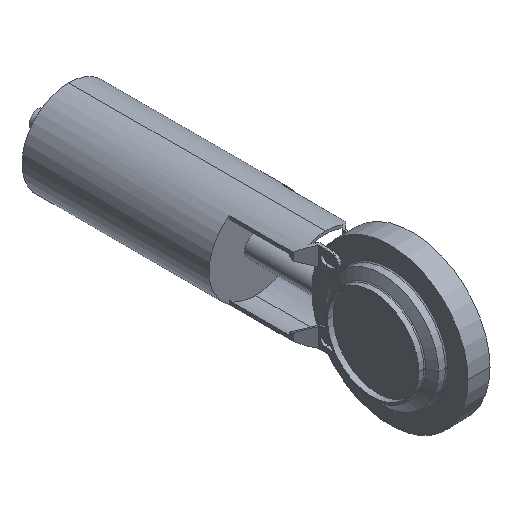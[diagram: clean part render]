
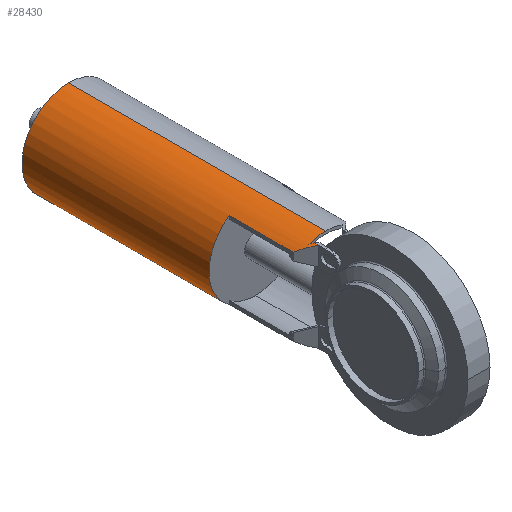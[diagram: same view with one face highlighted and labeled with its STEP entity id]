
A CAD part, isometric view. The second image highlights one B-rep face of the part: STEP entity #28430.
In plain terms, the highlighted cylindrical face has radius 42.5 mm (diameter 85 mm), a partial arc.
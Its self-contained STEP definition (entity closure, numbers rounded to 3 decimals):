
#19600=CARTESIAN_POINT('',(-279.595,169.806,
-35.075));
#19610=VERTEX_POINT('',#19600);
#19640=CARTESIAN_POINT('',(-255.595,169.806,
0.));
#19650=DIRECTION('',(0.,-1.,0.));
#19660=DIRECTION('',(0.,0.,1.));
#19670=AXIS2_PLACEMENT_3D('',#19640,#19650,#19660);
#19680=CIRCLE('',#19670,42.5);
#19690=CARTESIAN_POINT('',(-279.595,169.806,
35.075));
#19700=VERTEX_POINT('',#19690);
#19710=EDGE_CURVE('',#19700,#19610,#19680,.T.);
#21670=CARTESIAN_POINT('',(-255.595,106.406,
0.));
#21680=DIRECTION('',(0.,-1.,0.));
#21690=DIRECTION('',(0.,0.,-1.));
#21700=AXIS2_PLACEMENT_3D('',#21670,#21680,#21690);
#21710=CIRCLE('',#21700,42.5);
#21720=CARTESIAN_POINT('',(-255.595,106.406,-42.5));
#21730=VERTEX_POINT('',#21720);
#21760=CARTESIAN_POINT('',(-270.653,106.406,
-39.743));
#21770=VERTEX_POINT('',#21760);
#21780=EDGE_CURVE('',#21770,#21730,#21710,.T.);
#22160=CARTESIAN_POINT('',(-255.595,91.348,
0.));
#22170=DIRECTION('',(0.707,0.707,0.));
#22180=DIRECTION('',(0.707,-0.707,0.));
#22190=AXIS2_PLACEMENT_3D('',#22160,#22170,#22180);
#22200=ELLIPSE('',#22190,60.104,42.5);
#22210=CARTESIAN_POINT('',(-265.595,101.348,
-41.307));
#22220=VERTEX_POINT('',#22210);
#22230=EDGE_CURVE('',#22220,#21770,#22200,.T.);
#22410=CARTESIAN_POINT('',(-279.595,366.667,
-35.075));
#22420=DIRECTION('',(0.,-1.,0.));
#22430=VECTOR('',#22420,1.);
#22440=LINE('',#22410,#22430);
#22450=CARTESIAN_POINT('',(-279.595,111.812,
-35.075));
#22460=VERTEX_POINT('',#22450);
#22470=EDGE_CURVE('',#19610,#22460,#22440,.T.);
#23010=CARTESIAN_POINT('',(-268.095,93.857,
-40.62));
#23020=VERTEX_POINT('',#23010);
#23050=CARTESIAN_POINT('',(-268.095,366.667,
-40.62));
#23060=DIRECTION('',(0.,-1.,0.));
#23070=VECTOR('',#23060,1.);
#23080=LINE('',#23050,#23070);
#23090=CARTESIAN_POINT('',(-268.095,100.312,
-40.62));
#23100=VERTEX_POINT('',#23090);
#23110=EDGE_CURVE('',#23100,#23020,#23080,.T.);
#24690=CARTESIAN_POINT('',(-268.095,103.848,
40.62));
#24700=VERTEX_POINT('',#24690);
#24730=CARTESIAN_POINT('',(-255.595,91.348,
0.));
#24740=DIRECTION('',(0.707,0.707,0.));
#24750=DIRECTION('',(-0.707,0.707,0.));
#24760=AXIS2_PLACEMENT_3D('',#24730,#24740,#24750);
#24770=ELLIPSE('',#24760,60.104,42.5);
#24780=CARTESIAN_POINT('',(-270.653,106.406,
39.743));
#24790=VERTEX_POINT('',#24780);
#24800=EDGE_CURVE('',#24790,#24700,#24770,.T.);
#26130=CARTESIAN_POINT('',(-279.595,111.812,
35.075));
#26140=VERTEX_POINT('',#26130);
#26460=CARTESIAN_POINT('',(-279.595,366.667,
35.075));
#26470=DIRECTION('',(0.,-1.,0.));
#26480=VECTOR('',#26470,1.);
#26490=LINE('',#26460,#26480);
#26500=EDGE_CURVE('',#19700,#26140,#26490,.T.);
#27400=CARTESIAN_POINT('',(-255.595,106.406,
0.));
#27410=DIRECTION('',(0.,-1.,0.));
#27420=DIRECTION('',(0.,0.,1.));
#27430=AXIS2_PLACEMENT_3D('',#27400,#27410,#27420);
#27440=CIRCLE('',#27430,42.5);
#27450=CARTESIAN_POINT('',(-255.595,106.406,42.5));
#27460=VERTEX_POINT('',#27450);
#27470=EDGE_CURVE('',#27460,#24790,#27440,.T.);
#27590=CARTESIAN_POINT('',(-255.595,169.806,
0.));
#27600=DIRECTION('',(0.,-1.,0.));
#27610=DIRECTION('',(0.,0.,-1.));
#27620=AXIS2_PLACEMENT_3D('',#27590,#27600,#27610);
#27630=CYLINDRICAL_SURFACE('',#27620,42.5);
#27640=ORIENTED_EDGE('',*,*,#24800,.F.);
#27650=CARTESIAN_POINT('',(-268.095,366.667,
40.62));
#27660=DIRECTION('',(0.,-1.,0.));
#27670=VECTOR('',#27660,1.);
#27680=LINE('',#27650,#27670);
#27690=CARTESIAN_POINT('',(-268.095,100.312,
40.62));
#27700=VERTEX_POINT('',#27690);
#27710=EDGE_CURVE('',#24700,#27700,#27680,.T.);
#27720=ORIENTED_EDGE('',*,*,#27710,.F.);
#27730=CARTESIAN_POINT('',(-255.595,87.812,
0.));
#27740=DIRECTION('',(-0.707,-0.707,0.));
#27750=DIRECTION('',(0.707,-0.707,0.));
#27760=AXIS2_PLACEMENT_3D('',#27730,#27740,#27750);
#27770=ELLIPSE('',#27760,60.104,42.5);
#27780=EDGE_CURVE('',#27700,#26140,#27770,.T.);
#27790=ORIENTED_EDGE('',*,*,#27780,.F.);
#27800=ORIENTED_EDGE('',*,*,#26500,.T.);
#27810=ORIENTED_EDGE('',*,*,#19710,.F.);
#27820=ORIENTED_EDGE('',*,*,#22470,.F.);
#27830=CARTESIAN_POINT('',(-255.595,87.812,
0.));
#27840=DIRECTION('',(0.707,0.707,0.));
#27850=DIRECTION('',(0.707,-0.707,0.));
#27860=AXIS2_PLACEMENT_3D('',#27830,#27840,#27850);
#27870=ELLIPSE('',#27860,60.104,42.5);
#27880=EDGE_CURVE('',#23100,#22460,#27870,.T.);
#27890=ORIENTED_EDGE('',*,*,#27880,.T.);
#27900=ORIENTED_EDGE('',*,*,#23110,.F.);
#27910=CARTESIAN_POINT('',(-255.595,-262.662,
0.));
#27920=DIRECTION('',(0.,-0.113,-0.994));
#27930=DIRECTION('',(0.,0.994,-0.113));
#27940=AXIS2_PLACEMENT_3D('',#27910,#27920,#27930);
#27950=ELLIPSE('',#27940,375.431,42.5);
#27960=CARTESIAN_POINT('',(-266.242,98.46,
-41.145));
#27970=VERTEX_POINT('',#27960);
#27980=EDGE_CURVE('',#23020,#27970,#27950,.T.);
#27990=ORIENTED_EDGE('',*,*,#27980,.F.);
#28000=CARTESIAN_POINT('',(-255.595,87.812,
0.));
#28010=DIRECTION('',(-0.707,-0.707,0.));
#28020=DIRECTION('',(-0.707,0.707,0.));
#28030=AXIS2_PLACEMENT_3D('',#28000,#28010,#28020);
#28040=ELLIPSE('',#28030,60.104,42.5);
#28050=CARTESIAN_POINT('',(-265.595,97.812,
-41.307));
#28060=VERTEX_POINT('',#28050);
#28070=EDGE_CURVE('',#27970,#28060,#28040,.T.);
#28080=ORIENTED_EDGE('',*,*,#28070,.F.);
#28090=CARTESIAN_POINT('',(-265.595,366.667,
-41.307));
#28100=DIRECTION('',(0.,-1.,0.));
#28110=VECTOR('',#28100,1.);
#28120=LINE('',#28090,#28110);
#28130=EDGE_CURVE('',#22220,#28060,#28120,.T.);
#28140=ORIENTED_EDGE('',*,*,#28130,.T.);
#28150=ORIENTED_EDGE('',*,*,#22230,.F.);
#28160=ORIENTED_EDGE('',*,*,#21780,.F.);
#28170=CARTESIAN_POINT('',(-255.595,169.806,-42.5));
#28180=DIRECTION('',(0.,-1.,0.));
#28190=VECTOR('',#28180,1.);
#28200=LINE('',#28170,#28190);
#28210=CARTESIAN_POINT('',(-255.595,339.806,-42.5));
#28220=VERTEX_POINT('',#28210);
#28230=EDGE_CURVE('',#28220,#21730,#28200,.T.);
#28240=ORIENTED_EDGE('',*,*,#28230,.T.);
#28250=CARTESIAN_POINT('',(-255.595,339.806,
0.));
#28260=DIRECTION('',(0.,-1.,0.));
#28270=DIRECTION('',(0.,0.,-1.));
#28280=AXIS2_PLACEMENT_3D('',#28250,#28260,#28270);
#28290=CIRCLE('',#28280,42.5);
#28300=CARTESIAN_POINT('',(-255.595,339.806,42.5));
#28310=VERTEX_POINT('',#28300);
#28320=EDGE_CURVE('',#28310,#28220,#28290,.T.);
#28330=ORIENTED_EDGE('',*,*,#28320,.T.);
#28340=CARTESIAN_POINT('',(-255.595,169.806,42.5));
#28350=DIRECTION('',(0.,-1.,0.));
#28360=VECTOR('',#28350,1.);
#28370=LINE('',#28340,#28360);
#28380=EDGE_CURVE('',#28310,#27460,#28370,.T.);
#28390=ORIENTED_EDGE('',*,*,#28380,.F.);
#28400=ORIENTED_EDGE('',*,*,#27470,.F.);
#28410=EDGE_LOOP('',(#28400,#28390,#28330,#28240,#28160,#28150,#28140,
#28080,#27990,#27900,#27890,#27820,#27810,#27800,#27790,#27720,#27640));
#28420=FACE_OUTER_BOUND('',#28410,.T.);
#28430=ADVANCED_FACE('',(#28420),#27630,.T.);
